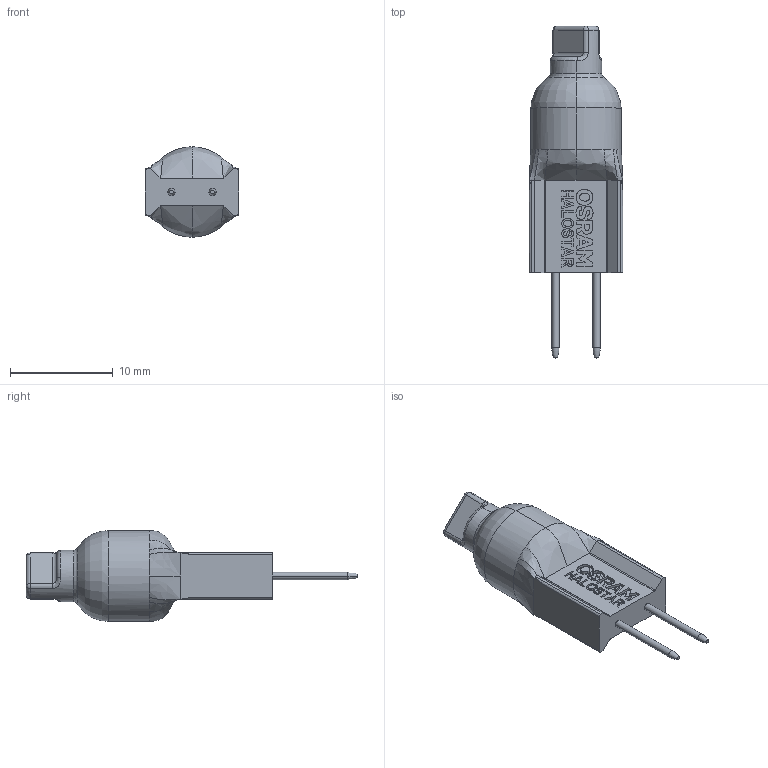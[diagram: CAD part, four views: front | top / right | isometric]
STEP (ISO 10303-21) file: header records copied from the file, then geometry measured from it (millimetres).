
FILE_DESCRIPTION (( 'STEP AP214' ), '1' );
FILE_NAME ('HALOSTAR_STARLITE_G4.STEP', '2010-01-12T12:37:00', ( 'OSRAM' ), ( 'GmbH' ), 'SwSTEP 2.0', 'SolidWorks 2009', '' );
FILE_SCHEMA (( 'AUTOMOTIVE_DESIGN' ));
Length unit declared in the file: millimetre
Products named in the file (1): HALOSTAR_STARLITE_G4
Bounding box: 9.1 x 32.3 x 8.8 mm (x, y, z)
Volume: 870.5 mm3; surface area: 741.3 mm2
Topology: 1 solids, 1 shells, 398 faces, 1029 edges, 671 vertices
Faces by surface type: plane 254, bspline 100, cylinder 27, torus 13, sphere 4
Entity records: 21879 total; most frequent: CARTESIAN_POINT 12767, ORIENTED_EDGE 2050, DIRECTION 1513, EDGE_CURVE 1025, VECTOR 739, LINE 739, VERTEX_POINT 671, EDGE_LOOP 440
